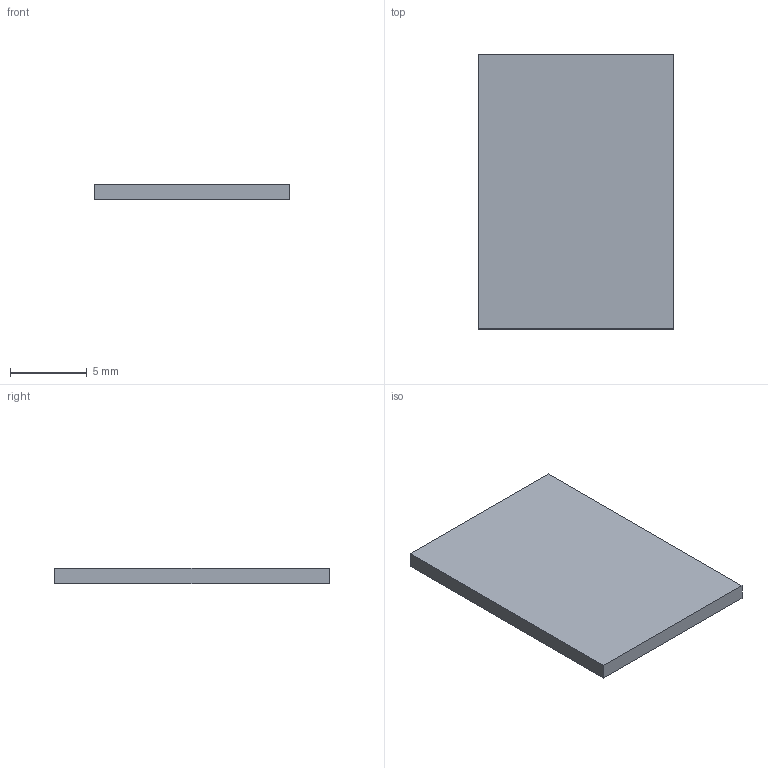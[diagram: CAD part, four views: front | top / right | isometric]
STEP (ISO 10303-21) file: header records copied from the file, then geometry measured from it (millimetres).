
FILE_DESCRIPTION(('Open CASCADE Model'),'2;1');
FILE_NAME('Open CASCADE Shape Model','2026-10-06T03:35:42',('Author'),( 'Open CASCADE'),'Open CASCADE STEP processor 7.8','Open CASCADE 7.8' ,'Unknown');
FILE_SCHEMA(('AUTOMOTIVE_DESIGN { 1 0 10303 214 1 1 1 1 }'));
Length unit declared in the file: millimetre
Products named in the file (1): Open CASCADE STEP translator 7.8 24
Bounding box: 12.7 x 17.8 x 1 mm (x, y, z)
Volume: 226.1 mm3; surface area: 513.1 mm2
Topology: 1 solids, 1 shells, 6 faces, 12 edges, 8 vertices
Faces by surface type: plane 6
Entity records: 322 total; most frequent: CARTESIAN_POINT 51, DIRECTION 50, LINE 36, VECTOR 36, ORIENTED_EDGE 24, PCURVE 24, DEFINITIONAL_REPRESENTATION 24, EDGE_CURVE 12
